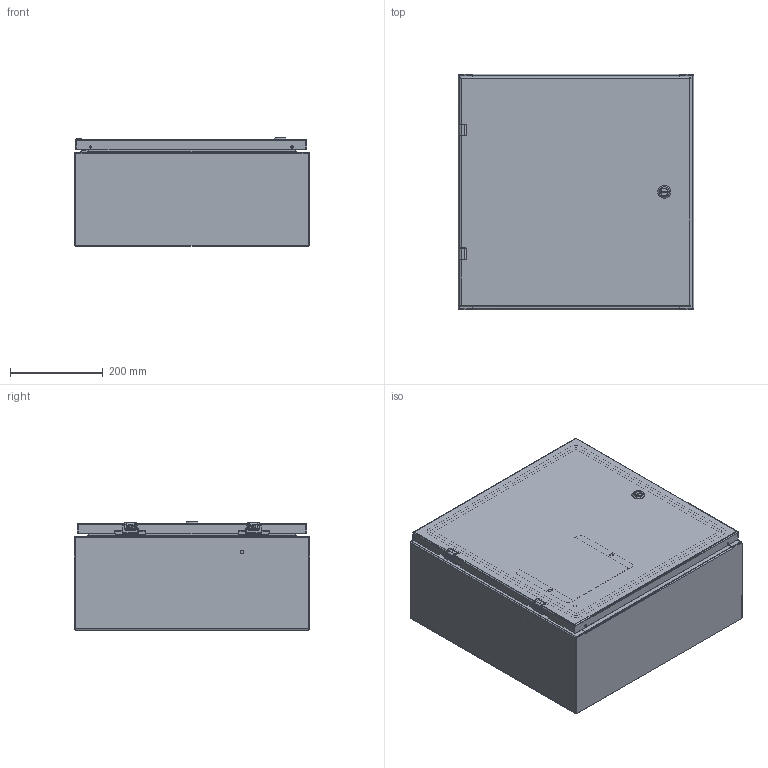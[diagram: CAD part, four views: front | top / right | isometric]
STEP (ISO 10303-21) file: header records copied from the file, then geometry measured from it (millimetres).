
FILE_DESCRIPTION((''),'2;1');
FILE_NAME('MODEL-305_ASM','2021-04-20T12:47:43',('johnh'),('SAGINAW CONTROL & ENGINEERING'),'CREO PARAMETRIC BY PTC INC, 2017260','CREO PARAMETRIC BY PTC INC, 2017260','');
FILE_SCHEMA(('AUTOMOTIVE_DESIGN { 1 0 10303 214 1 1 1 1 }'));
Length unit declared in the file: inch
Products named in the file (29): MODEL-305-BDY; MODEL-305-TP; MODEL-305-BTM; MODEL-305-DR; 100837; 100882; 111541; 100794_SHAFT; 100794_INSERT; 100794_CAM; 100794_NUT; 100794_SCREW; 100794_ASM; MODEL-305-DOOR-GASKET; 126391; 126397; 126391_ASM; 126393; 102483; 101226; 101376; 102140; MODEL-305-DOOR-ASSY_ASM; 101651; 122191; SUBPANEL; 100904; SUBPANEL-SUBASSEMBLY_ASM; MODEL-305_ASM
Assembly tree (48 placements, depth 4):
  MODEL-305_ASM
    MODEL-305-BDY
    MODEL-305-TP
    MODEL-305-BTM
    MODEL-305-DOOR-ASSY_ASM
      MODEL-305-DR
      100837  x3
      100882  x2
      111541
      100794_ASM
        100794_SHAFT
        100794_INSERT
        100794_CAM
        100794_NUT
        100794_SCREW
      MODEL-305-DOOR-GASKET
      126391_ASM  x2
        126391
        126397
      126393  x2
      102483  x6
      101226  x2
      101376  x2
      102140  x2
    100837
    101651  x4
    122191
    SUBPANEL-SUBASSEMBLY_ASM
      SUBPANEL
      100904  x4
Bounding box: 508 x 508 x 234.45 mm (x, y, z)
Volume: 2885014.4 mm3; surface area: 2664519.1 mm2
Topology: 44 solids, 44 shells, 2631 faces, 6663 edges, 4176 vertices
Faces by surface type: plane 1084, cylinder 740, bspline 432, torus 223, cone 96, sphere 56
Entity records: 84578 total; most frequent: CARTESIAN_POINT 23724, ORIENTED_EDGE 8500, DIRECTION 8013, PRESENTATION_STYLE_ASSIGNMENT 4447, EDGE_CURVE 4250, STYLED_ITEM 4172, CURVE_STYLE 4088, AXIS2_PLACEMENT_3D 2933
